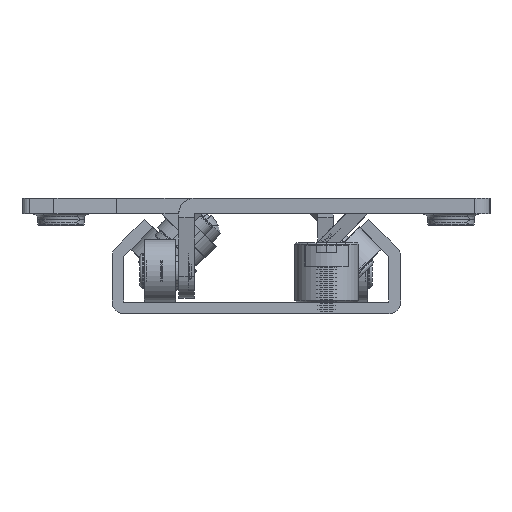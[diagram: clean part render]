
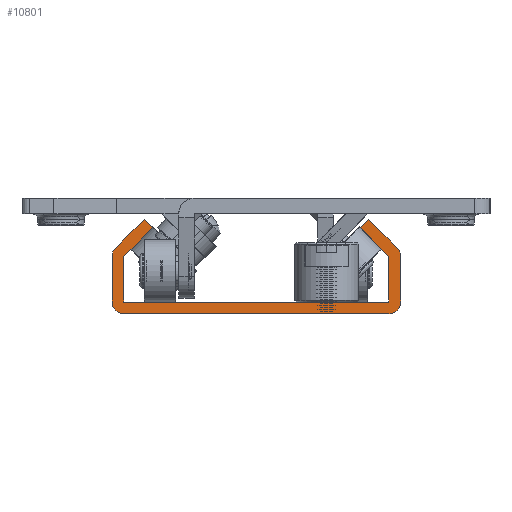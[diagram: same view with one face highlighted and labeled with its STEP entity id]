
A CAD part, left-side view. The second image highlights one B-rep face of the part: STEP entity #10801.
In plain terms, the highlighted planar face has unit normal (-1, 0, 0).
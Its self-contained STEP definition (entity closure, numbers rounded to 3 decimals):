
#10662=CARTESIAN_POINT('',(6.032,-561.972,-18.688));
#10663=VERTEX_POINT('',#10662);
#10664=CARTESIAN_POINT('',(6.032,-560.912,-17.627));
#10665=VERTEX_POINT('',#10664);
#10666=CARTESIAN_POINT('',(6.032,-560.823,-17.539));
#10667=DIRECTION('',(0.,0.707,0.707));
#10668=VECTOR('',#10667,1.);
#10669=LINE('',#10666,#10668);
#10670=EDGE_CURVE('',#10663,#10665,#10669,.T.);
#10671=ORIENTED_EDGE('',*,*,#10670,.T.);
#10672=CARTESIAN_POINT('',(6.032,-557.23,-21.309));
#10673=VERTEX_POINT('',#10672);
#10674=CARTESIAN_POINT('',(6.032,-561.124,-17.415));
#10675=DIRECTION('',(0.,-0.707,0.707));
#10676=VECTOR('',#10675,1.);
#10677=LINE('',#10674,#10676);
#10678=EDGE_CURVE('',#10673,#10665,#10677,.T.);
#10679=ORIENTED_EDGE('',*,*,#10678,.F.);
#10680=CARTESIAN_POINT('',(6.032,-556.79,-22.37));
#10681=VERTEX_POINT('',#10680);
#10682=CARTESIAN_POINT('',(6.032,-558.29,-22.37));
#10683=DIRECTION('',(1.,0.,0.));
#10684=DIRECTION('',(0.,0.,1.));
#10685=AXIS2_PLACEMENT_3D('',#10682,#10683,#10684);
#10686=CIRCLE('',#10685,1.5);
#10687=EDGE_CURVE('',#10681,#10673,#10686,.T.);
#10688=ORIENTED_EDGE('',*,*,#10687,.F.);
#10689=CARTESIAN_POINT('',(6.032,-556.79,-28.214));
#10690=VERTEX_POINT('',#10689);
#10691=CARTESIAN_POINT('',(6.032,-556.79,-28.214));
#10692=DIRECTION('',(0.,0.,1.));
#10693=VECTOR('',#10692,1.);
#10694=LINE('',#10691,#10693);
#10695=EDGE_CURVE('',#10690,#10681,#10694,.T.);
#10696=ORIENTED_EDGE('',*,*,#10695,.F.);
#10697=CARTESIAN_POINT('',(6.032,-558.29,-29.714));
#10698=VERTEX_POINT('',#10697);
#10699=CARTESIAN_POINT('',(6.032,-558.29,-28.214));
#10700=DIRECTION('',(1.,0.,0.));
#10701=DIRECTION('',(0.,1.,0.));
#10702=AXIS2_PLACEMENT_3D('',#10699,#10700,#10701);
#10703=CIRCLE('',#10702,1.5);
#10704=EDGE_CURVE('',#10698,#10690,#10703,.T.);
#10705=ORIENTED_EDGE('',*,*,#10704,.F.);
#10706=CARTESIAN_POINT('',(6.032,-592.29,-29.714));
#10707=VERTEX_POINT('',#10706);
#10708=CARTESIAN_POINT('',(6.032,-592.29,-29.714));
#10709=DIRECTION('',(0.,1.,0.));
#10710=VECTOR('',#10709,1.);
#10711=LINE('',#10708,#10710);
#10712=EDGE_CURVE('',#10707,#10698,#10711,.T.);
#10713=ORIENTED_EDGE('',*,*,#10712,.F.);
#10714=CARTESIAN_POINT('',(6.032,-593.79,-28.214));
#10715=VERTEX_POINT('',#10714);
#10716=CARTESIAN_POINT('',(6.032,-592.29,-28.214));
#10717=DIRECTION('',(1.,0.,0.));
#10718=DIRECTION('',(0.,1.,0.));
#10719=AXIS2_PLACEMENT_3D('',#10716,#10717,#10718);
#10720=CIRCLE('',#10719,1.5);
#10721=EDGE_CURVE('',#10715,#10707,#10720,.T.);
#10722=ORIENTED_EDGE('',*,*,#10721,.F.);
#10723=CARTESIAN_POINT('',(6.032,-593.79,-22.37));
#10724=VERTEX_POINT('',#10723);
#10725=CARTESIAN_POINT('',(6.032,-593.79,-28.214));
#10726=DIRECTION('',(0.,0.,-1.));
#10727=VECTOR('',#10726,1.);
#10728=LINE('',#10725,#10727);
#10729=EDGE_CURVE('',#10724,#10715,#10728,.T.);
#10730=ORIENTED_EDGE('',*,*,#10729,.F.);
#10731=CARTESIAN_POINT('',(6.032,-593.351,-21.309));
#10732=VERTEX_POINT('',#10731);
#10733=CARTESIAN_POINT('',(6.032,-592.29,-22.37));
#10734=DIRECTION('',(1.,0.,0.));
#10735=DIRECTION('',(0.,0.,1.));
#10736=AXIS2_PLACEMENT_3D('',#10733,#10734,#10735);
#10737=CIRCLE('',#10736,1.5);
#10738=EDGE_CURVE('',#10732,#10724,#10737,.T.);
#10739=ORIENTED_EDGE('',*,*,#10738,.F.);
#10740=CARTESIAN_POINT('',(6.032,-589.669,-17.627));
#10741=VERTEX_POINT('',#10740);
#10742=CARTESIAN_POINT('',(6.032,-589.457,-17.415));
#10743=DIRECTION('',(0.,-0.707,-0.707));
#10744=VECTOR('',#10743,1.);
#10745=LINE('',#10742,#10744);
#10746=EDGE_CURVE('',#10741,#10732,#10745,.T.);
#10747=ORIENTED_EDGE('',*,*,#10746,.F.);
#10748=CARTESIAN_POINT('',(6.032,-588.608,-18.688));
#10749=VERTEX_POINT('',#10748);
#10750=CARTESIAN_POINT('',(6.032,-582.939,-24.357));
#10751=DIRECTION('',(0.,0.707,-0.707));
#10752=VECTOR('',#10751,1.);
#10753=LINE('',#10750,#10752);
#10754=EDGE_CURVE('',#10741,#10749,#10753,.T.);
#10755=ORIENTED_EDGE('',*,*,#10754,.T.);
#10756=CARTESIAN_POINT('',(6.032,-592.29,-22.37));
#10757=VERTEX_POINT('',#10756);
#10758=CARTESIAN_POINT('',(6.032,-588.396,-18.475));
#10759=DIRECTION('',(0.,0.707,0.707));
#10760=VECTOR('',#10759,1.);
#10761=LINE('',#10758,#10760);
#10762=EDGE_CURVE('',#10757,#10749,#10761,.T.);
#10763=ORIENTED_EDGE('',*,*,#10762,.F.);
#10764=CARTESIAN_POINT('',(6.032,-592.29,-28.214));
#10765=VERTEX_POINT('',#10764);
#10766=CARTESIAN_POINT('',(6.032,-592.29,-28.214));
#10767=DIRECTION('',(0.,0.,1.));
#10768=VECTOR('',#10767,1.);
#10769=LINE('',#10766,#10768);
#10770=EDGE_CURVE('',#10765,#10757,#10769,.T.);
#10771=ORIENTED_EDGE('',*,*,#10770,.F.);
#10772=CARTESIAN_POINT('',(6.032,-558.29,-28.214));
#10773=VERTEX_POINT('',#10772);
#10774=CARTESIAN_POINT('',(6.032,-592.29,-28.214));
#10775=DIRECTION('',(0.,-1.,0.));
#10776=VECTOR('',#10775,1.);
#10777=LINE('',#10774,#10776);
#10778=EDGE_CURVE('',#10773,#10765,#10777,.T.);
#10779=ORIENTED_EDGE('',*,*,#10778,.F.);
#10780=CARTESIAN_POINT('',(6.032,-558.29,-22.37));
#10781=VERTEX_POINT('',#10780);
#10782=CARTESIAN_POINT('',(6.032,-558.29,-28.214));
#10783=DIRECTION('',(0.,0.,-1.));
#10784=VECTOR('',#10783,1.);
#10785=LINE('',#10782,#10784);
#10786=EDGE_CURVE('',#10781,#10773,#10785,.T.);
#10787=ORIENTED_EDGE('',*,*,#10786,.F.);
#10788=CARTESIAN_POINT('',(6.032,-562.184,-18.475));
#10789=DIRECTION('',(0.,0.707,-0.707));
#10790=VECTOR('',#10789,1.);
#10791=LINE('',#10788,#10790);
#10792=EDGE_CURVE('',#10663,#10781,#10791,.T.);
#10793=ORIENTED_EDGE('',*,*,#10792,.F.);
#10794=EDGE_LOOP('',(#10671,#10679,#10688,#10696,#10705,#10713,#10722,#10730,#10739,#10747,#10755,#10763,#10771,#10779,#10787,#10793));
#10795=FACE_OUTER_BOUND('',#10794,.T.);
#10796=CARTESIAN_POINT('',(6.032,-561.654,-17.945));
#10797=DIRECTION('',(-1.,0.,0.));
#10798=DIRECTION('',(0.,1.,0.));
#10799=AXIS2_PLACEMENT_3D('',#10796,#10797,#10798);
#10800=PLANE('',#10799);
#10801=ADVANCED_FACE('',(#10795),#10800,.T.);
